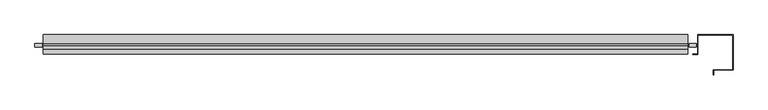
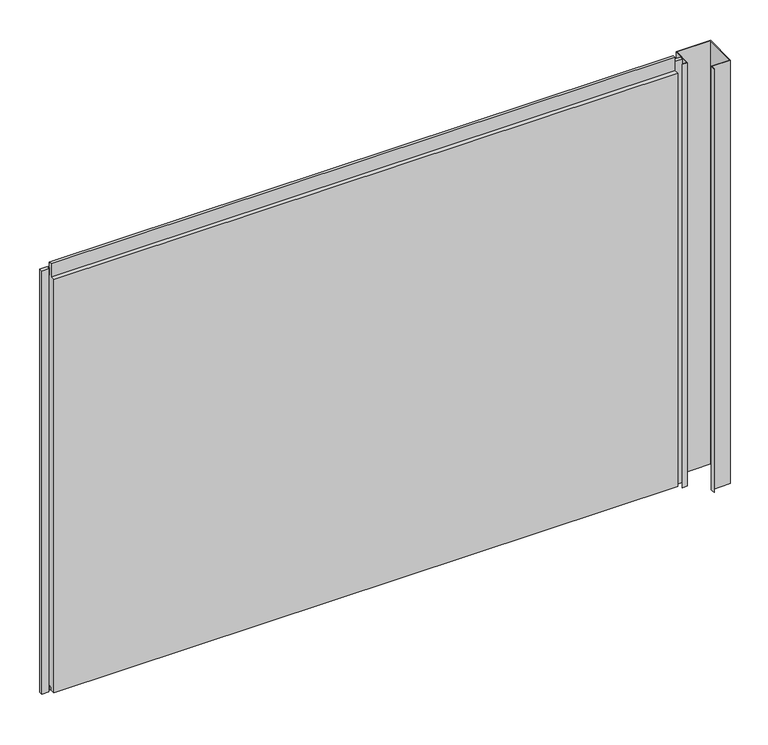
"""IFC4 building model written with IfcOpenShell, lengths in millimetres: plate geometry, Trimo_Qbiss Screen_Normal Panel-HORIZONTAL : HR - B."""

from ifc_helpers import new_model, si_unit, frame, origin, place, context, project, spatial, polyline, outline, extrude, source, transform, mapped, element, save


def plate_7878da5e(model_context):
    return source(origin(), model_context, "Body", "SweptSolid", [
        extrude(outline(polyline([(-840.5, 76.5978162), (-840.5, 67.8978162), (-859.5, 67.8978162), (-859.5, 76.5978162), (-840.5, 76.5978162)])), frame((0.0, 0.0, -1.0), z_axis=(0.0, 0.0, 1.0), x_axis=(1.0, 0.0, 0.0)), (0.0, 0.0, 1.0), 1200.0),
        extrude(outline(polyline([(836.0, 67.8978162), (836.0, 76.5978162), (855.0, 76.5978162), (855.0, 67.8978162), (836.0, 67.8978162)])), frame((0.0, 0.0, -1.0), z_axis=(0.0, 0.0, 1.0), x_axis=(1.0, 0.0, 0.0)), (0.0, 0.0, 1.0), 1200.0),
        extrude(outline(polyline([(833.0, 76.0), (833.0, 71.0), (-837.5, 71.0), (-837.5, 76.0), (833.0, 76.0)])), frame((0.0, 0.0, 1178.0), z_axis=(0.0, 0.0, 1.0), x_axis=(1.0, 0.0, 0.0)), (0.0, 0.0, 1.0), 21.0),
        extrude(outline(polyline([(71.0, 1177.0), (100.0, 1177.0), (100.0, 0.0), (72.0, 0.0), (72.0, 15.5), (62.0, 15.5), (62.0, 7.0), (50.0, 7.0), (50.0, 1177.0), (63.0, 1177.0), (63.0, 1214.5), (71.0, 1214.5), (71.0, 1177.0)])), frame((-837.5, 0.0, 0.0), z_axis=(1.0, 0.0, 0.0), x_axis=(0.0, 1.0, 0.0)), (0.0, 0.0, 1.0), 1670.5),
        extrude(outline(polyline([(858.0, 50.0), (858.0, 100.0), (950.0, 100.0), (950.0, 8.0), (900.0, 8.0), (900.0, -4.5), (899.2, -4.5), (899.2, 8.8), (949.2, 8.8), (949.2, 99.2), (858.8, 99.2), (858.8, 49.1823429), (845.5, 49.1823429), (845.5, 50.0), (858.0, 50.0)])), frame((0.0, 0.0, -1.0), z_axis=(0.0, 0.0, 1.0), x_axis=(1.0, 0.0, 0.0)), (0.0, 0.0, 1.0), 1200.0),
    ])


if __name__ == "__main__":
    model = new_model("IFC4")
    model_context = context("Model", 3, world=origin())
    ifc_project = project(units=[si_unit("LENGTHUNIT", "METRE", prefix="MILLI")], contexts=[model_context])
    site = spatial("IfcSite", under=ifc_project)
    building = spatial("IfcBuilding", under=site)
    placement = place(None, origin())
    plate_shape = plate_7878da5e(model_context)
    element("IfcPlate", 1, ObjectType="Trimo_Qbiss Screen_Normal Panel-HORIZONTAL : HR - B", at=placement, inside=building, context=model_context, shape_type="MappedRepresentation", body=[
        mapped(plate_shape, transform((0.0, 0.0, 0.0), x_axis=(1.0, 0.0, 0.0), y_axis=(0.0, 1.0, 0.0), z_axis=(0.0, 0.0, 1.0))),
    ])
    save(model, "model.ifc")
